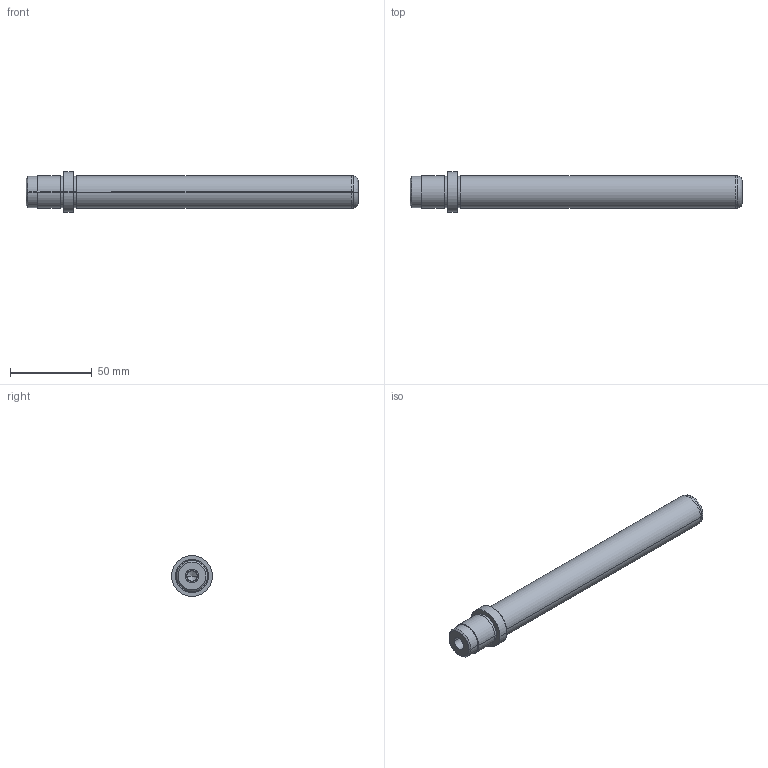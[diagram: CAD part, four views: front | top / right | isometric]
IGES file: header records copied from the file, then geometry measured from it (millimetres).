
Start section: SolidWorks IGES FILE using analytic representation for surfaces
Global section: file name: D:\zzzzz\Delta\D06\20\D06 - 20x180x23.IGS; native system: SolidWorks 2004 by SolidWorks Corporation; preprocessor: Version 5.3; author: Hkn; date: 080327.150356; units: millimetre
Bounding box: 203 x 25 x 25 mm (x, y, z)
Surface area: 14976.8 mm2 (no closed solid volume)
Topology: 0 solids, 0 shells, 39 faces, 696 edges, 692 vertices
Faces by surface type: revolution 28, bspline 11
